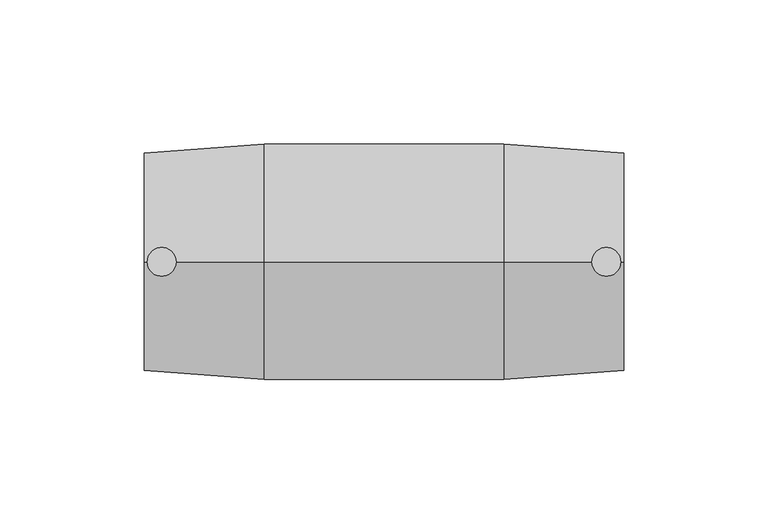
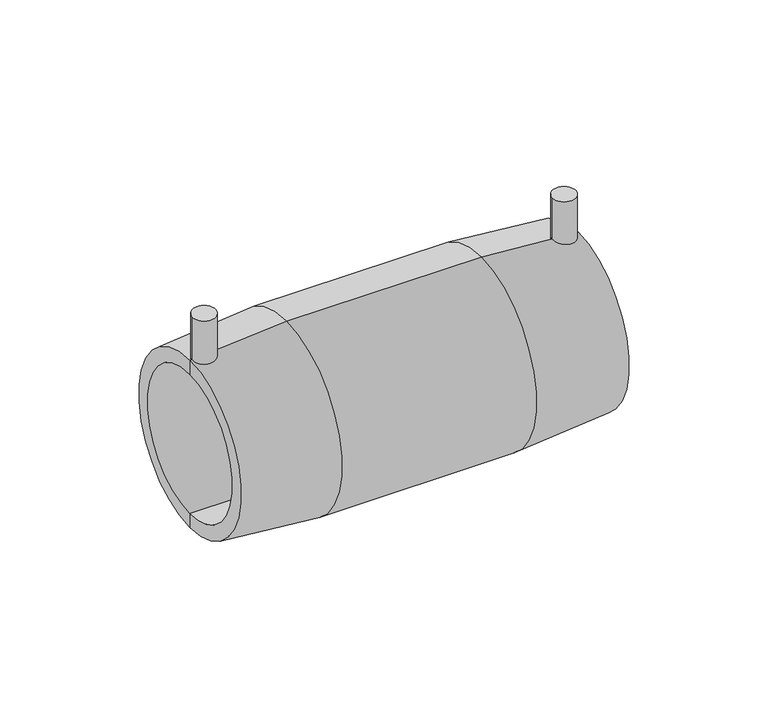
"""IFC4 building model written with IfcOpenShell, lengths in millimetres: pipe fitting geometry, Plumbing_Pipe-Fittings_Plasson_Long-Coupler_4901L4 : Plumbing_Pipe-Fittings_Plasson_Long-Coupler_4901L4."""

import ifcopenshell
import ifcopenshell.guid

model = None  # the IFC model being written
_history = None  # IfcOwnerHistory: only IFC2X3 demands one
_inside = {}  # id of a spatial element -> (the spatial element, [elements in it])
_under = {}  # id of a project, library or spatial element -> (it, [spatial elements below it])
_declared = {}  # id of a project -> (the project, [libraries it declares])
_typed = {}  # id of a type object -> (the type object, [elements of that type])
_made_of = {}  # id of a material, layer set ... -> (it, [elements and type objects made of it])


def new_model(schema):
    """Start an empty IFC model of exactly this schema.

    Asked for "IFC4X3", IfcOpenShell would pick the latest addendum, in which some entities
    have other attributes; the version numbers below select the first issue.
    IFC2X3 requires an IfcOwnerHistory on every rooted entity: one is made here for all.
    """
    global model, _history
    if schema == "IFC4X3":
        model = ifcopenshell.file(schema_version=(4, 3, 0, 0))
    else:
        model = ifcopenshell.file(schema=schema)
    _inside.clear()
    _under.clear()
    _declared.clear()
    _typed.clear()
    _made_of.clear()
    _history = None
    if model.schema == "IFC2X3":
        org = make("IfcOrganization", Name="unknown")
        user = make(
            "IfcPersonAndOrganization",
            ThePerson=make("IfcPerson", FamilyName="unknown"),
            TheOrganization=org,
        )
        app = make(
            "IfcApplication",
            ApplicationDeveloper=org,
            Version="unknown",
            ApplicationFullName="unknown",
            ApplicationIdentifier="unknown",
        )
        _history = make(
            "IfcOwnerHistory",
            OwningUser=user,
            OwningApplication=app,
            ChangeAction="ADDED",
            CreationDate=0,
        )
    return model


def make(cls, **values):
    """One entity of the class cls with the attributes given. An attribute that is None is left unset."""
    return model.create_entity(
        cls, **{name: value for name, value in values.items() if value is not None}
    )


def rooted(cls, **values):
    """An entity with a GlobalId (a new one), such as an element, a storey or a relation."""
    return make(cls, GlobalId=ifcopenshell.guid.new(), OwnerHistory=_history, **values)


def si_unit(unit_type, name, prefix=None):
    """IfcSIUnit, for example si_unit("LENGTHUNIT", "METRE", prefix="MILLI")."""
    return make("IfcSIUnit", UnitType=unit_type, Prefix=prefix, Name=name)


def assignment(units):
    """IfcUnitAssignment: the units of a project."""
    return None if units is None else make("IfcUnitAssignment", Units=units)


def point(xyz):
    """IfcCartesianPoint."""
    return None if xyz is None else make("IfcCartesianPoint", Coordinates=xyz)


def direction(xyz):
    """IfcDirection."""
    return None if xyz is None else make("IfcDirection", DirectionRatios=xyz)


def frame(location, z_axis=None, x_axis=None):
    """IfcAxis2Placement3D, a coordinate frame: its origin and axes. An axis left out is left unset."""
    return make(
        "IfcAxis2Placement3D",
        Location=point(location),
        Axis=direction(z_axis),
        RefDirection=direction(x_axis),
    )


def frame_2d(location, x_axis=None):
    """IfcAxis2Placement2D, a coordinate frame in the plane: its origin and x axis."""
    return make(
        "IfcAxis2Placement2D", Location=point(location), RefDirection=direction(x_axis)
    )


def origin():
    """The frame at (0, 0, 0) with its axes left unset."""
    return frame((0.0, 0.0, 0.0))


def place(relative_to, where):
    """IfcLocalPlacement: puts the frame where relative to a parent placement (None: the world)."""
    return make(
        "IfcLocalPlacement", PlacementRelTo=relative_to, RelativePlacement=where
    )


def context(
    kind, dimensions, precision=None, world=None, true_north=None, identifier=None
):
    """IfcGeometricRepresentationContext, for example the 3D "Model" context."""
    return make(
        "IfcGeometricRepresentationContext",
        ContextIdentifier=identifier,
        ContextType=kind,
        CoordinateSpaceDimension=dimensions,
        Precision=precision,
        WorldCoordinateSystem=world,
        TrueNorth=true_north,
    )


def project(units=None, contexts=None):
    """IfcProject with its units and contexts."""
    return rooted(
        "IfcProject",
        Name="project",
        RepresentationContexts=contexts,
        UnitsInContext=assignment(units),
    )


def spatial(cls, under=None, at=None, **own):
    """A site, building, storey or space (cls), placed at a placement, below another one or the project."""
    s = rooted(cls, ObjectPlacement=at, **own)
    if under is not None:
        _under.setdefault(under.id(), (under, []))[1].append(s)
    return s


def polyline(points):
    """IfcPolyline through the points."""
    return make("IfcPolyline", Points=[point(p) for p in points])


def circle_curve(where, radius):
    """IfcCircle in the frame where."""
    return make("IfcCircle", Position=where, Radius=radius)


def trimmed(basis, trim1, trim2, sense, master):
    """IfcTrimmedCurve: the piece of a basis curve between two trims."""
    return make(
        "IfcTrimmedCurve",
        BasisCurve=basis,
        Trim1=trim1,
        Trim2=trim2,
        SenseAgreement=sense,
        MasterRepresentation=master,
    )


def segment(curve, same_sense, transition):
    """IfcCompositeCurveSegment."""
    return make(
        "IfcCompositeCurveSegment",
        Transition=transition,
        SameSense=same_sense,
        ParentCurve=curve,
    )


def composite_curve(segments, self_intersect=None):
    """IfcCompositeCurve: segments joined end to end."""
    return make("IfcCompositeCurve", Segments=segments, SelfIntersect=self_intersect)


def outline(outer, holes=None, kind="AREA"):
    """IfcArbitraryClosedProfileDef: a profile drawn as a closed curve; with holes, ...WithVoids."""
    if holes is None:
        return make("IfcArbitraryClosedProfileDef", ProfileType=kind, OuterCurve=outer)
    return make(
        "IfcArbitraryProfileDefWithVoids",
        ProfileType=kind,
        OuterCurve=outer,
        InnerCurves=holes,
    )


def extrude(swept, where, along, depth):
    """IfcExtrudedAreaSolid: the profile swept, set in the frame where, extruded along a direction by depth."""
    return make(
        "IfcExtrudedAreaSolid",
        SweptArea=swept,
        Position=where,
        ExtrudedDirection=direction(along),
        Depth=depth,
    )


def shape(context_of_items, identifier, shape_type, items):
    """IfcShapeRepresentation: the items that make up one representation, for example the "Body"."""
    return make(
        "IfcShapeRepresentation",
        ContextOfItems=context_of_items,
        RepresentationIdentifier=identifier,
        RepresentationType=shape_type,
        Items=items,
    )


def source(mapping_origin, context_of_items, identifier, shape_type, items):
    """IfcRepresentationMap: a shape defined once, which mapped items show again and again."""
    return make(
        "IfcRepresentationMap",
        MappingOrigin=mapping_origin,
        MappedRepresentation=shape(context_of_items, identifier, shape_type, items),
    )


def transform(
    local_origin,
    x_axis=None,
    y_axis=None,
    z_axis=None,
    scale=None,
    scale2=None,
    scale3=None,
    uniform=True,
):
    """IfcCartesianTransformationOperator3D, or its non-uniform kind. x_axis, y_axis, z_axis: its Axis1, 2, 3."""
    if uniform:
        return make(
            "IfcCartesianTransformationOperator3D",
            Axis1=direction(x_axis),
            Axis2=direction(y_axis),
            LocalOrigin=point(local_origin),
            Scale=scale,
            Axis3=direction(z_axis),
        )
    return make(
        "IfcCartesianTransformationOperator3DnonUniform",
        Axis1=direction(x_axis),
        Axis2=direction(y_axis),
        LocalOrigin=point(local_origin),
        Scale=scale,
        Axis3=direction(z_axis),
        Scale2=scale2,
        Scale3=scale3,
    )


def mapped(mapping_source, mapping_target):
    """IfcMappedItem: shows the shape of a source again, moved by a transform."""
    return make(
        "IfcMappedItem", MappingSource=mapping_source, MappingTarget=mapping_target
    )


def made_of(thing, what):
    """Note that an element or type object is made of a material, layer set ...; save() writes the relation."""
    if what is not None:
        _made_of.setdefault(what.id(), (what, []))[1].append(thing)
    return thing


def element(
    cls,
    number,
    at=None,
    inside=None,
    cuts=None,
    type_object=None,
    material=None,
    context=None,
    identifier="Body",
    shape_type=None,
    held_by="IfcProductDefinitionShape",
    body=None,
    shapes=None,
    **own,
):
    """One element of the class cls, such as IfcWall. Its Tag is "e" and its number.

    at: its placement. inside: the storey or other place that contains it. cuts: it is an
    opening in that element (IfcRelVoidsElement). A single representation is given by context,
    identifier, shape_type and body (its items); several are given by shapes. held_by: the class
    of the entity that holds the representations. save() writes the other relations.
    """
    e = rooted(cls, Tag="e%d" % number, ObjectPlacement=at, **own)
    if body is not None:
        shapes = [shape(context, identifier, shape_type, body)]
    if shapes is not None:
        e.Representation = make(held_by, Representations=shapes)
    if inside is not None:
        _inside.setdefault(inside.id(), (inside, []))[1].append(e)
    if cuts is not None:
        rooted(
            "IfcRelVoidsElement", RelatingBuildingElement=cuts, RelatedOpeningElement=e
        )
    if type_object is not None:
        _typed.setdefault(type_object.id(), (type_object, []))[1].append(e)
    return made_of(e, material)


def aggregate(whole, parts):
    """IfcRelAggregates: a whole, such as a stair, and the parts it consists of."""
    return rooted("IfcRelAggregates", RelatingObject=whole, RelatedObjects=parts)


def save(model, path):
    """Write the relations noted so far, then the file.

    IfcRelAggregates (storeys below a building ...), IfcRelContainedInSpatialStructure (elements
    in a storey), IfcRelDefinesByType, IfcRelAssociatesMaterial and IfcRelDeclares: one each for
    every whole, place, type object, material and project.
    """
    for whole, parts in _under.values():
        aggregate(whole, parts)
    for where, things in _inside.values():
        rooted(
            "IfcRelContainedInSpatialStructure",
            RelatedElements=things,
            RelatingStructure=where,
        )
    for kind, things in _typed.values():
        rooted("IfcRelDefinesByType", RelatedObjects=things, RelatingType=kind)
    for what, things in _made_of.values():
        rooted("IfcRelAssociatesMaterial", RelatedObjects=things, RelatingMaterial=what)
    for by, libraries in _declared.values():
        rooted("IfcRelDeclares", RelatingContext=by, RelatedDefinitions=libraries)
    model.write(path)


def plane_surface(at):
    """IfcPlane: the flat surface through the origin of the frame at, square to its z axis."""
    return make("IfcPlane", Position=at)


def cylinder_surface(at, radius):
    """IfcCylindricalSurface: all points at the distance radius from the z axis of the frame at."""
    return make("IfcCylindricalSurface", Position=at, Radius=radius)


def revolved_surface(curve, axis_point, axis_direction):
    """IfcSurfaceOfRevolution: the curve turned about the line through axis_point along axis_direction."""
    return make(
        "IfcSurfaceOfRevolution",
        SweptCurve=make("IfcArbitraryOpenProfileDef", ProfileType="CURVE", Curve=curve),
        AxisPosition=make("IfcAxis1Placement", Location=point(axis_point), Axis=direction(axis_direction)),
    )


def advanced_brep(points, edges, surfaces, faces):
    """IfcAdvancedBrep: a solid bounded by faces that lie on surfaces and meet in shared edges.

    An edge is (start, end): straight between two places in points (the first is 0);
    or (start, end, curve); or (start, end, curve, False) where it runs against its curve.
    A face is (place in surfaces, loops), or (place, loops, False) where it looks against
    its surface's normal. A loop lists edges by number (the first is 1), with a minus sign
    where the edge is run from its end to its start. The first loop is the outer one.
    """
    corners = [point(p) for p in points]
    vertices = [make("IfcVertexPoint", VertexGeometry=c) for c in corners]
    made = []
    for start, end, *more in edges:
        made.append(
            make(
                "IfcEdgeCurve",
                EdgeStart=vertices[start],
                EdgeEnd=vertices[end],
                EdgeGeometry=more[0] if more else make("IfcPolyline", Points=[corners[start], corners[end]]),
                SameSense=more[1] if len(more) > 1 else True,
            )
        )
    hull = []
    for where, loops, *sense in faces:
        bounds = []
        for j, loop in enumerate(loops):
            ring = [make("IfcOrientedEdge", EdgeElement=made[abs(k) - 1], Orientation=k > 0) for k in loop]
            bounds.append(
                make(
                    "IfcFaceOuterBound" if j == 0 else "IfcFaceBound",
                    Bound=make("IfcEdgeLoop", EdgeList=ring),
                    Orientation=True,
                )
            )
        hull.append(make("IfcAdvancedFace", Bounds=bounds, FaceSurface=surfaces[where], SameSense=sense[0] if sense else True))
    return make("IfcAdvancedBrep", Outer=make("IfcClosedShell", CfsFaces=hull))


def pipe_fitting_e99ab456(model_context):
    return source(origin(), model_context, "Body", "SolidModel", [
        extrude(outline(composite_curve([segment(trimmed(circle_curve(frame_2d((-77.0, 0.0)), 5.0), [point((-82.0, 0.0))], [point((-72.0, 0.0))], False, "CARTESIAN"), True, "CONTINUOUS"), segment(trimmed(circle_curve(frame_2d((-77.0, 0.0)), 5.0), [point((-72.0, 0.0))], [point((-82.0, 0.0))], False, "CARTESIAN"), True, "CONTINUOUS")], self_intersect=False)), frame((0.0, 0.0, 36.25), z_axis=(0.0, 0.0, 1.0), x_axis=(1.0, 0.0, 0.0)), (0.0, 0.0, 1.0), 20.75),
        extrude(outline(composite_curve([segment(trimmed(circle_curve(frame_2d((77.0, 0.0)), 5.0), [point((72.0, 0.0))], [point((82.0, 0.0))], False, "CARTESIAN"), True, "CONTINUOUS"), segment(trimmed(circle_curve(frame_2d((77.0, 0.0)), 5.0), [point((82.0, 0.0))], [point((72.0, 0.0))], False, "CARTESIAN"), True, "CONTINUOUS")], self_intersect=False)), frame((0.0, 0.0, 36.25), z_axis=(0.0, 0.0, 1.0), x_axis=(1.0, 0.0, 0.0)), (0.0, 0.0, 1.0), 20.75),
        advanced_brep(
        [(-2.0, 0.0, -31.5), (-2.0, 0.0, 31.5), (-83.0, 0.0, 31.5), (-83.0, 0.0, -31.5), (83.0, 0.0, -37.8333333), (83.0, 0.0, 37.8333333), (83.0, 0.0, 31.5), (83.0, 0.0, -31.5), (-41.5, 0.0, -41.0), (-41.5, 0.0, 41.0), (41.5, 0.0, 41.0), (41.5, 0.0, -41.0), (-83.0, 0.0, 37.8333333), (-83.0, 0.0, -37.8333333), (-2.0, 0.0, -28.5), (-2.0, 0.0, 28.5), (2.0, 0.0, -28.5), (2.0, 0.0, 28.5), (2.0, 0.0, -31.5), (2.0, 0.0, 31.5)],
        [
            (0, 1, circle_curve(frame((-2.0, 0.0, 0.0), z_axis=(1.0, 0.0, 0.0), x_axis=(0.0, 0.0, 1.0)), 31.5)),
            (1, 2),
            (2, 3, circle_curve(frame((-83.0, 0.0, 0.0), z_axis=(-1.0, 0.0, 0.0), x_axis=(0.0, 0.0, 1.0)), 31.5)),
            (3, 0),
            (1, 0, circle_curve(frame((-2.0, 0.0, 0.0), z_axis=(1.0, 0.0, 0.0), x_axis=(0.0, 0.0, 1.0)), 31.5)),
            (3, 2, circle_curve(frame((-83.0, 0.0, 0.0), z_axis=(-1.0, 0.0, 0.0), x_axis=(0.0, 0.0, 1.0)), 31.5)),
            (4, 5, circle_curve(frame((83.0, 0.0, 0.0), z_axis=(1.0, 0.0, 0.0), x_axis=(0.0, 0.0, 1.0)), 37.8333333)),
            (5, 6),
            (6, 7, circle_curve(frame((83.0, 0.0, 0.0), z_axis=(-1.0, 0.0, 0.0), x_axis=(0.0, 0.0, 1.0)), 31.5)),
            (7, 4),
            (5, 4, circle_curve(frame((83.0, 0.0, 0.0), z_axis=(1.0, 0.0, 0.0), x_axis=(0.0, 0.0, 1.0)), 37.8333333)),
            (7, 6, circle_curve(frame((83.0, 0.0, 0.0), z_axis=(-1.0, 0.0, 0.0), x_axis=(0.0, 0.0, 1.0)), 31.5)),
            (8, 9, circle_curve(frame((-41.5, 0.0, 0.0), z_axis=(1.0, 0.0, 0.0), x_axis=(0.0, 0.0, 1.0)), 41.0)),
            (9, 10),
            (10, 11, circle_curve(frame((41.5, 0.0, 0.0), z_axis=(-1.0, 0.0, 0.0), x_axis=(0.0, 0.0, 1.0)), 41.0)),
            (11, 8),
            (9, 8, circle_curve(frame((-41.5, 0.0, 0.0), z_axis=(1.0, 0.0, 0.0), x_axis=(0.0, 0.0, 1.0)), 41.0)),
            (11, 10, circle_curve(frame((41.5, 0.0, 0.0), z_axis=(-1.0, 0.0, 0.0), x_axis=(0.0, 0.0, 1.0)), 41.0)),
            (2, 12),
            (12, 13, circle_curve(frame((-83.0, 0.0, 0.0), z_axis=(-1.0, 0.0, 0.0), x_axis=(0.0, 0.0, 1.0)), 37.8333333)),
            (13, 3),
            (13, 12, circle_curve(frame((-83.0, 0.0, 0.0), z_axis=(-1.0, 0.0, 0.0), x_axis=(0.0, 0.0, 1.0)), 37.8333333)),
            (10, 5),
            (4, 11),
            (12, 9),
            (8, 13),
            (14, 15, circle_curve(frame((-2.0, 0.0, 0.0), z_axis=(1.0, 0.0, 0.0), x_axis=(0.0, 0.0, 1.0)), 28.5)),
            (15, 1),
            (0, 14),
            (15, 14, circle_curve(frame((-2.0, 0.0, 0.0), z_axis=(1.0, 0.0, 0.0), x_axis=(0.0, 0.0, 1.0)), 28.5)),
            (16, 17, circle_curve(frame((2.0, 0.0, 0.0), z_axis=(1.0, 0.0, 0.0), x_axis=(0.0, 0.0, 1.0)), 28.5)),
            (17, 15),
            (14, 16),
            (17, 16, circle_curve(frame((2.0, 0.0, 0.0), z_axis=(1.0, 0.0, 0.0), x_axis=(0.0, 0.0, 1.0)), 28.5)),
            (18, 19, circle_curve(frame((2.0, 0.0, 0.0), z_axis=(1.0, 0.0, 0.0), x_axis=(0.0, 0.0, 1.0)), 31.5)),
            (19, 17),
            (16, 18),
            (19, 18, circle_curve(frame((2.0, 0.0, 0.0), z_axis=(1.0, 0.0, 0.0), x_axis=(0.0, 0.0, 1.0)), 31.5)),
            (6, 19),
            (18, 7),
        ],
        [
            revolved_surface(polyline([(-83.0, 0.0, 31.5), (-2.0, 0.0, 31.5)]), (-83.0, 0.0, 0.0), (-1.0, 0.0, 0.0)),
            plane_surface(frame((83.0, 0.0, 0.0), z_axis=(1.0, 0.0, 0.0), x_axis=(0.0, 0.0, 1.0))),
            cylinder_surface(frame((-83.0, 0.0, 0.0), z_axis=(-1.0, 0.0, 0.0), x_axis=(0.0, 0.0, 1.0)), 41.0),
            plane_surface(frame((-83.0, 0.0, 0.0), z_axis=(-1.0, 0.0, 0.0), x_axis=(0.0, 0.0, 1.0))),
            revolved_surface(polyline([(83.0, 0.0, 37.8333333), (41.5, 0.0, 41.0)]), (-83.0, 0.0, 0.0), (-1.0, 0.0, 0.0)),
            revolved_surface(polyline([(-41.5, 0.0, 41.0), (-83.0, 0.0, 37.8333333)]), (-83.0, 0.0, 0.0), (-1.0, 0.0, 0.0)),
            plane_surface(frame((-2.0, 0.0, 0.0), z_axis=(-1.0, 0.0, 0.0), x_axis=(0.0, 0.0, 1.0))),
            revolved_surface(polyline([(-2.0, 0.0, 28.5), (2.0, 0.0, 28.5)]), (-83.0, 0.0, 0.0), (-1.0, 0.0, 0.0)),
            plane_surface(frame((2.0, 0.0, 0.0), z_axis=(1.0, 0.0, 0.0), x_axis=(0.0, 0.0, 1.0))),
            revolved_surface(polyline([(2.0, 0.0, 31.5), (83.0, 0.0, 31.5)]), (-83.0, 0.0, 0.0), (-1.0, 0.0, 0.0)),
        ],
        [
            (0, [[1, 2, 3, 4]]),
            (0, [[5, -4, 6, -2]]),
            (1, [[7, 8, 9, 10]]),
            (1, [[11, -10, 12, -8]]),
            (2, [[13, 14, 15, 16]]),
            (2, [[17, -16, 18, -14]]),
            (3, [[-3, 19, 20, 21]]),
            (3, [[-6, -21, 22, -19]]),
            (4, [[-15, 23, -7, 24]]),
            (4, [[-18, -24, -11, -23]]),
            (5, [[-20, 25, -13, 26]]),
            (5, [[-22, -26, -17, -25]]),
            (6, [[27, 28, -1, 29]]),
            (6, [[30, -29, -5, -28]]),
            (7, [[31, 32, -27, 33]]),
            (7, [[34, -33, -30, -32]]),
            (8, [[35, 36, -31, 37]]),
            (8, [[38, -37, -34, -36]]),
            (9, [[-9, 39, -35, 40]]),
            (9, [[-12, -40, -38, -39]]),
        ],
    ),
    ])


if __name__ == "__main__":
    model = new_model("IFC4")
    model_context = context("Model", 3, world=origin())
    ifc_project = project(units=[si_unit("LENGTHUNIT", "METRE", prefix="MILLI")], contexts=[model_context])
    site = spatial("IfcSite", under=ifc_project)
    building = spatial("IfcBuilding", under=site)
    placement = place(None, origin())
    pipe_fitting_shape = pipe_fitting_e99ab456(model_context)
    element("IfcPipeFitting", 1, ObjectType="Plumbing_Pipe-Fittings_Plasson_Long-Coupler_4901L4 : Plumbing_Pipe-Fittings_Plasson_Long-Coupler_4901L4", at=placement, inside=building, context=model_context, shape_type="MappedRepresentation", body=[
        mapped(pipe_fitting_shape, transform((0.0, 0.0, 0.0), x_axis=(1.0, 0.0, 0.0), y_axis=(0.0, 1.0, 0.0), z_axis=(0.0, 0.0, 1.0))),
    ])
    save(model, "model.ifc")
